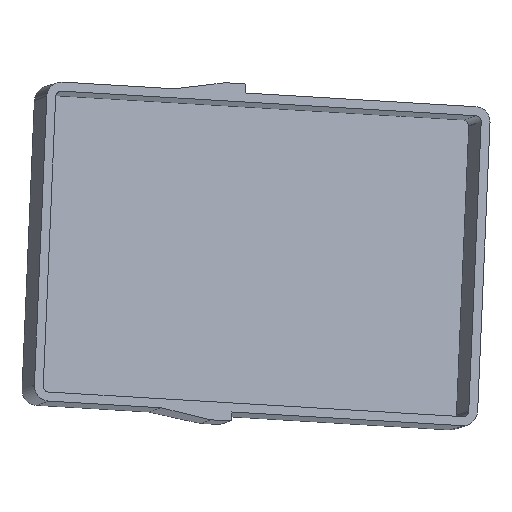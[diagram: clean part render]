
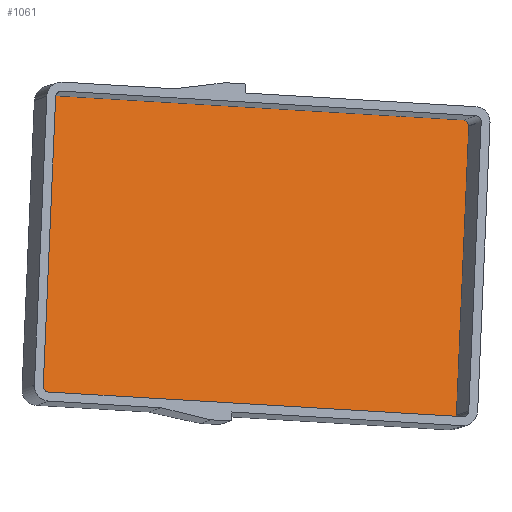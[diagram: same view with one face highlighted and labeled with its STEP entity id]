
A CAD part, top view. The second image highlights one B-rep face of the part: STEP entity #1061.
In plain terms, the highlighted planar face has unit normal (0.205, 0.068, 0.976).
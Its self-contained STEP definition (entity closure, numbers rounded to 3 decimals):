
#3 = DIRECTION ( 'NONE',  ( 0.979, 0., -0.205 ) ) ;
#11 = EDGE_CURVE ( 'NONE', #1186, #783, #143, .T. ) ;
#12 = DIRECTION ( 'NONE',  ( 0.979, 0., -0.205 ) ) ;
#36 = ORIENTED_EDGE ( 'NONE', *, *, #305, .T. ) ;
#50 = ORIENTED_EDGE ( 'NONE', *, *, #1324, .T. ) ;
#114 = CIRCLE ( 'NONE', #558, 2. ) ;
#143 = LINE ( 'NONE', #658, #1052 ) ;
#165 = CARTESIAN_POINT ( 'NONE',  ( 66.643, 39.188, -7.94 ) ) ;
#198 = DIRECTION ( 'NONE',  ( 0.205, 0.068, 0.976 ) ) ;
#203 = DIRECTION ( 'NONE',  ( 0.043, 0.996, -0.079 ) ) ;
#209 = LINE ( 'NONE', #230, #521 ) ;
#210 = CARTESIAN_POINT ( 'NONE',  ( 68.599, 39.072, -8.343 ) ) ;
#218 = ORIENTED_EDGE ( 'NONE', *, *, #593, .T. ) ;
#230 = CARTESIAN_POINT ( 'NONE',  ( 64.415, -58.535, -0.64 ) ) ;
#273 = CARTESIAN_POINT ( 'NONE',  ( 68.684, 41.064, -8.5 ) ) ;
#279 = CARTESIAN_POINT ( 'NONE',  ( 62.459, -58.419, -0.238 ) ) ;
#286 = CIRCLE ( 'NONE', #307, 2. ) ;
#305 = EDGE_CURVE ( 'NONE', #696, #829, #286, .T. ) ;
#307 = AXIS2_PLACEMENT_3D ( 'NONE', #1160, #648, #738 ) ;
#308 = CIRCLE ( 'NONE', #1228, 2. ) ;
#361 = DIRECTION ( 'NONE',  ( 0.205, 0.068, 0.976 ) ) ;
#366 = ORIENTED_EDGE ( 'NONE', *, *, #11, .T. ) ;
#371 = AXIS2_PLACEMENT_3D ( 'NONE', #807, #198, #12 ) ;
#376 = ORIENTED_EDGE ( 'NONE', *, *, #943, .T. ) ;
#406 = CARTESIAN_POINT ( 'NONE',  ( -76.396, -50.213, 28.325 ) ) ;
#414 = DIRECTION ( 'NONE',  ( 0.205, 0.068, 0.976 ) ) ;
#420 = DIRECTION ( 'NONE',  ( 0.205, 0.068, 0.976 ) ) ;
#494 = CARTESIAN_POINT ( 'NONE',  ( -70.256, 47.278, 20.22 ) ) ;
#496 = EDGE_CURVE ( 'NONE', #1300, #961, #889, .T. ) ;
#521 = VECTOR ( 'NONE', #203, 1000. ) ;
#539 = CARTESIAN_POINT ( 'NONE',  ( 68.601, 39.188, -8.351 ) ) ;
#554 = CARTESIAN_POINT ( 'NONE',  ( -70.171, 49.27, 20.063 ) ) ;
#558 = AXIS2_PLACEMENT_3D ( 'NONE', #165, #361, #668 ) ;
#564 = PLANE ( 'NONE',  #1138 ) ;
#593 = EDGE_CURVE ( 'NONE', #1114, #730, #1290, .T. ) ;
#600 = CIRCLE ( 'NONE', #875, 2. ) ;
#621 = EDGE_CURVE ( 'NONE', #961, #1186, #600, .T. ) ;
#639 = EDGE_CURVE ( 'NONE', #783, #1292, #308, .T. ) ;
#648 = DIRECTION ( 'NONE',  ( 0.205, 0.068, 0.976 ) ) ;
#656 = ORIENTED_EDGE ( 'NONE', *, *, #496, .T. ) ;
#658 = CARTESIAN_POINT ( 'NONE',  ( -72.127, 49.386, 20.466 ) ) ;
#668 = DIRECTION ( 'NONE',  ( 0.979, 0., -0.205 ) ) ;
#696 = VERTEX_POINT ( 'NONE', #210 ) ;
#730 = VERTEX_POINT ( 'NONE', #1030 ) ;
#738 = DIRECTION ( 'NONE',  ( 0.979, 0., -0.205 ) ) ;
#740 = EDGE_CURVE ( 'NONE', #1292, #1114, #912, .T. ) ;
#742 = DIRECTION ( 'NONE',  ( -0.043, -0.996, 0.079 ) ) ;
#783 = VERTEX_POINT ( 'NONE', #1017 ) ;
#807 = CARTESIAN_POINT ( 'NONE',  ( 62.545, -56.427, -0.395 ) ) ;
#808 = ORIENTED_EDGE ( 'NONE', *, *, #639, .T. ) ;
#829 = VERTEX_POINT ( 'NONE', #539 ) ;
#875 = AXIS2_PLACEMENT_3D ( 'NONE', #494, #414, #913 ) ;
#888 = CARTESIAN_POINT ( 'NONE',  ( 1.757, 0.586, 8.374 ) ) ;
#889 = LINE ( 'NONE', #273, #987 ) ;
#912 = LINE ( 'NONE', #406, #1149 ) ;
#913 = DIRECTION ( 'NONE',  ( 0.979, 0., -0.205 ) ) ;
#922 = EDGE_LOOP ( 'NONE', ( #1109, #218, #50, #36, #376, #656, #945, #366, #808 ) ) ;
#928 = DIRECTION ( 'NONE',  ( 0.978, -0.058, -0.201 ) ) ;
#943 = EDGE_CURVE ( 'NONE', #829, #1300, #114, .T. ) ;
#945 = ORIENTED_EDGE ( 'NONE', *, *, #621, .T. ) ;
#961 = VERTEX_POINT ( 'NONE', #554 ) ;
#981 = FACE_OUTER_BOUND ( 'NONE', #922, .T. ) ;
#987 = VECTOR ( 'NONE', #1310, 1000. ) ;
#1004 = CARTESIAN_POINT ( 'NONE',  ( -74.355, -48.337, 27.766 ) ) ;
#1017 = CARTESIAN_POINT ( 'NONE',  ( -76.311, -48.221, 28.168 ) ) ;
#1029 = CARTESIAN_POINT ( 'NONE',  ( 66.729, 41.18, -8.097 ) ) ;
#1030 = CARTESIAN_POINT ( 'NONE',  ( 64.5, -56.543, -0.797 ) ) ;
#1052 = VECTOR ( 'NONE', #742, 1000. ) ;
#1061 = ADVANCED_FACE ( 'NONE', ( #981 ), #564, .T. ) ;
#1098 = DIRECTION ( 'NONE',  ( 0.979, 0., -0.205 ) ) ;
#1109 = ORIENTED_EDGE ( 'NONE', *, *, #740, .T. ) ;
#1114 = VERTEX_POINT ( 'NONE', #279 ) ;
#1116 = CARTESIAN_POINT ( 'NONE',  ( -74.44, -50.329, 27.923 ) ) ;
#1138 = AXIS2_PLACEMENT_3D ( 'NONE', #888, #1280, #1098 ) ;
#1149 = VECTOR ( 'NONE', #928, 1000. ) ;
#1160 = CARTESIAN_POINT ( 'NONE',  ( 66.643, 39.188, -7.94 ) ) ;
#1185 = CARTESIAN_POINT ( 'NONE',  ( -72.212, 47.394, 20.623 ) ) ;
#1186 = VERTEX_POINT ( 'NONE', #1185 ) ;
#1228 = AXIS2_PLACEMENT_3D ( 'NONE', #1004, #420, #3 ) ;
#1280 = DIRECTION ( 'NONE',  ( 0.205, 0.068, 0.976 ) ) ;
#1290 = CIRCLE ( 'NONE', #371, 2. ) ;
#1292 = VERTEX_POINT ( 'NONE', #1116 ) ;
#1300 = VERTEX_POINT ( 'NONE', #1029 ) ;
#1310 = DIRECTION ( 'NONE',  ( -0.978, 0.058, 0.201 ) ) ;
#1324 = EDGE_CURVE ( 'NONE', #730, #696, #209, .T. ) ;
